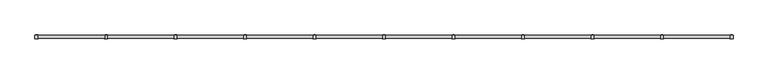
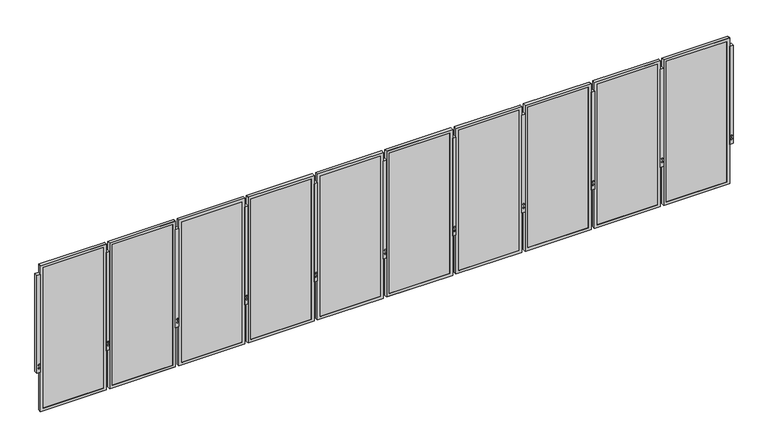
"""IFC4 building model written with IfcOpenShell, lengths in millimetres: railing geometry, Railing - Amico Architectural - Expanded Mesh Railing - Bilbao."""

from ifc_helpers import new_model, si_unit, frame, origin, place, context, project, spatial, polyline, outline, extrude, faceted_brep, source, transform, mapped, element, save


def railing_dcffd05b(model_context):
    return source(origin(), model_context, "Body", "SolidModel", [
        extrude(outline(polyline([(-18830.3844217, -28390.7915825), (-18779.5844217, -28390.7915825), (-18779.5844217, -28441.5915825), (-18830.3844217, -28441.5915825), (-18830.3844217, -28390.7915825)])), frame((0.0, 0.0, -609.6), z_axis=(0.0, 0.0, 1.0), x_axis=(1.0, 0.0, 0.0)), (0.0, 0.0, 1.0), 1524.0),
        extrude(outline(polyline([(-530.1129981, -18815.4049919), (-542.3802561, -18812.1179901), (-545.667258, -18799.8507321), (-536.6870019, -18790.8704759), (-524.4197439, -18794.1574778), (-521.132742, -18806.4247358), (-530.1129981, -18815.4049919)])), frame((0.0, -28443.4382703, 0.0), z_axis=(0.0, 1.0, 0.0), x_axis=(0.0, 0.0, 1.0)), (0.0, 0.0, 1.0), 54.4933756),
        extrude(outline(polyline([(-479.3129981, -18815.4049919), (-491.5802561, -18812.1179901), (-494.867258, -18799.8507321), (-485.8870019, -18790.8704759), (-473.6197439, -18794.1574778), (-470.332742, -18806.4247358), (-479.3129981, -18815.4049919)])), frame((0.0, -28443.4382703, 0.0), z_axis=(0.0, 1.0, 0.0), x_axis=(0.0, 0.0, 1.0)), (0.0, 0.0, 1.0), 54.4933756),
        faceted_brep([(-19796.7888751, -28437.9847825, -1222.375), (-18828.4138751, -28437.9847825, -1222.375), (-18828.4138751, -28437.9847825, 1044.575), (-19796.7888751, -28437.9847825, 1044.575), (-19755.5138751, -28437.9847825, 1003.3), (-18869.6888751, -28437.9847825, 1003.3), (-18869.6888751, -28437.9847825, -1181.1), (-19755.5138751, -28437.9847825, -1181.1), (-19755.5138751, -28435.2415825, 1003.3), (-19755.5138751, -28435.2415825, -1181.1), (-19796.7888751, -28394.1114859, 1044.575), (-19796.7888751, -28394.1114859, -1222.375), (-19793.6138751, -28394.1114859, 1041.4), (-19793.6138751, -28435.2415825, 1041.4), (-19793.6138751, -28435.2415825, -1219.2), (-19793.6138751, -28394.1114859, -1219.2), (-18869.6888751, -28435.2415825, -1181.1), (-18828.4138751, -28394.1114859, -1222.375), (-18831.5888751, -28435.2415825, -1219.2), (-18831.5888751, -28394.1114859, -1219.2), (-18869.6888751, -28435.2415825, 1003.3), (-18828.4138751, -28394.1114859, 1044.575), (-18831.5888751, -28435.2415825, 1041.4), (-18831.5888751, -28394.1114859, 1041.4)], [[[0, 1, 2, 3], [4, 5, 6, 7]], [[8, 4, 7, 9]], [[3, 10, 11, 0]], [[12, 13, 14, 15]], [[9, 7, 6, 16]], [[0, 11, 17, 1]], [[15, 14, 18, 19]], [[16, 6, 5, 20]], [[1, 17, 21, 2]], [[19, 18, 22, 23]], [[20, 5, 4, 8]], [[10, 21, 17, 11], [15, 19, 23, 12]], [[2, 21, 10, 3]], [[13, 22, 18, 14], [9, 16, 20, 8]], [[23, 22, 13, 12]]]),
        extrude(outline(polyline([(-19793.6138751, -28425.7165825), (-18831.5888751, -28425.7165825), (-18831.5888751, -28435.2415825), (-19793.6138751, -28435.2415825), (-19793.6138751, -28425.7165825)])), frame((0.0, 0.0, -1219.2), z_axis=(0.0, 0.0, 1.0), x_axis=(1.0, 0.0, 0.0)), (0.0, 0.0, 1.0), 2260.6),
        extrude(outline(polyline([(-19847.9719217, -28390.7915825), (-19797.1719217, -28390.7915825), (-19797.1719217, -28441.5915825), (-19847.9719217, -28441.5915825), (-19847.9719217, -28390.7915825)])), frame((0.0, 0.0, -609.6), z_axis=(0.0, 0.0, 1.0), x_axis=(1.0, 0.0, 0.0)), (0.0, 0.0, 1.0), 1524.0),
        extrude(outline(polyline([(-530.1129981, -19832.9924919), (-542.3802561, -19829.7054901), (-545.667258, -19817.4382321), (-536.6870019, -19808.4579759), (-524.4197439, -19811.7449778), (-521.132742, -19824.0122358), (-530.1129981, -19832.9924919)])), frame((0.0, -28443.4382703, 0.0), z_axis=(0.0, 1.0, 0.0), x_axis=(0.0, 0.0, 1.0)), (0.0, 0.0, 1.0), 54.4933756),
        extrude(outline(polyline([(-479.3129981, -19832.9924919), (-491.5802561, -19829.7054901), (-494.867258, -19817.4382321), (-485.8870019, -19808.4579759), (-473.6197439, -19811.7449778), (-470.332742, -19824.0122358), (-479.3129981, -19832.9924919)])), frame((0.0, -28443.4382703, 0.0), z_axis=(0.0, 1.0, 0.0), x_axis=(0.0, 0.0, 1.0)), (0.0, 0.0, 1.0), 54.4933756),
        faceted_brep([(-20814.3763751, -28437.9847825, -1222.375), (-19846.0013751, -28437.9847825, -1222.375), (-19846.0013751, -28437.9847825, 1044.575), (-20814.3763751, -28437.9847825, 1044.575), (-20773.1013751, -28437.9847825, 1003.3), (-19887.2763751, -28437.9847825, 1003.3), (-19887.2763751, -28437.9847825, -1181.1), (-20773.1013751, -28437.9847825, -1181.1), (-20773.1013751, -28435.2415825, 1003.3), (-20773.1013751, -28435.2415825, -1181.1), (-20814.3763751, -28394.1114859, 1044.575), (-20814.3763751, -28394.1114859, -1222.375), (-20811.2013751, -28394.1114859, 1041.4), (-20811.2013751, -28435.2415825, 1041.4), (-20811.2013751, -28435.2415825, -1219.2), (-20811.2013751, -28394.1114859, -1219.2), (-19887.2763751, -28435.2415825, -1181.1), (-19846.0013751, -28394.1114859, -1222.375), (-19849.1763751, -28435.2415825, -1219.2), (-19849.1763751, -28394.1114859, -1219.2), (-19887.2763751, -28435.2415825, 1003.3), (-19846.0013751, -28394.1114859, 1044.575), (-19849.1763751, -28435.2415825, 1041.4), (-19849.1763751, -28394.1114859, 1041.4)], [[[0, 1, 2, 3], [4, 5, 6, 7]], [[8, 4, 7, 9]], [[3, 10, 11, 0]], [[12, 13, 14, 15]], [[9, 7, 6, 16]], [[0, 11, 17, 1]], [[15, 14, 18, 19]], [[16, 6, 5, 20]], [[1, 17, 21, 2]], [[19, 18, 22, 23]], [[20, 5, 4, 8]], [[10, 21, 17, 11], [15, 19, 23, 12]], [[2, 21, 10, 3]], [[13, 22, 18, 14], [9, 16, 20, 8]], [[23, 22, 13, 12]]]),
        extrude(outline(polyline([(-20811.2013751, -28425.7165825), (-19849.1763751, -28425.7165825), (-19849.1763751, -28435.2415825), (-20811.2013751, -28435.2415825), (-20811.2013751, -28425.7165825)])), frame((0.0, 0.0, -1219.2), z_axis=(0.0, 0.0, 1.0), x_axis=(1.0, 0.0, 0.0)), (0.0, 0.0, 1.0), 2260.6),
        extrude(outline(polyline([(-20865.5594217, -28390.7915825), (-20814.7594217, -28390.7915825), (-20814.7594217, -28441.5915825), (-20865.5594217, -28441.5915825), (-20865.5594217, -28390.7915825)])), frame((0.0, 0.0, -609.6), z_axis=(0.0, 0.0, 1.0), x_axis=(1.0, 0.0, 0.0)), (0.0, 0.0, 1.0), 1524.0),
        extrude(outline(polyline([(-530.1129981, -20850.5799919), (-542.3802561, -20847.2929901), (-545.667258, -20835.0257321), (-536.6870019, -20826.0454759), (-524.4197439, -20829.3324778), (-521.132742, -20841.5997358), (-530.1129981, -20850.5799919)])), frame((0.0, -28443.4382703, 0.0), z_axis=(0.0, 1.0, 0.0), x_axis=(0.0, 0.0, 1.0)), (0.0, 0.0, 1.0), 54.4933756),
        extrude(outline(polyline([(-479.3129981, -20850.5799919), (-491.5802561, -20847.2929901), (-494.867258, -20835.0257321), (-485.8870019, -20826.0454759), (-473.6197439, -20829.3324778), (-470.332742, -20841.5997358), (-479.3129981, -20850.5799919)])), frame((0.0, -28443.4382703, 0.0), z_axis=(0.0, 1.0, 0.0), x_axis=(0.0, 0.0, 1.0)), (0.0, 0.0, 1.0), 54.4933756),
        faceted_brep([(-21831.9638751, -28437.9847825, -1222.375), (-20863.5888751, -28437.9847825, -1222.375), (-20863.5888751, -28437.9847825, 1044.575), (-21831.9638751, -28437.9847825, 1044.575), (-21790.6888751, -28437.9847825, 1003.3), (-20904.8638751, -28437.9847825, 1003.3), (-20904.8638751, -28437.9847825, -1181.1), (-21790.6888751, -28437.9847825, -1181.1), (-21790.6888751, -28435.2415825, 1003.3), (-21790.6888751, -28435.2415825, -1181.1), (-21831.9638751, -28394.1114859, 1044.575), (-21831.9638751, -28394.1114859, -1222.375), (-21828.7888751, -28394.1114859, 1041.4), (-21828.7888751, -28435.2415825, 1041.4), (-21828.7888751, -28435.2415825, -1219.2), (-21828.7888751, -28394.1114859, -1219.2), (-20904.8638751, -28435.2415825, -1181.1), (-20863.5888751, -28394.1114859, -1222.375), (-20866.7638751, -28435.2415825, -1219.2), (-20866.7638751, -28394.1114859, -1219.2), (-20904.8638751, -28435.2415825, 1003.3), (-20863.5888751, -28394.1114859, 1044.575), (-20866.7638751, -28435.2415825, 1041.4), (-20866.7638751, -28394.1114859, 1041.4)], [[[0, 1, 2, 3], [4, 5, 6, 7]], [[8, 4, 7, 9]], [[3, 10, 11, 0]], [[12, 13, 14, 15]], [[9, 7, 6, 16]], [[0, 11, 17, 1]], [[15, 14, 18, 19]], [[16, 6, 5, 20]], [[1, 17, 21, 2]], [[19, 18, 22, 23]], [[20, 5, 4, 8]], [[10, 21, 17, 11], [15, 19, 23, 12]], [[2, 21, 10, 3]], [[13, 22, 18, 14], [9, 16, 20, 8]], [[23, 22, 13, 12]]]),
        extrude(outline(polyline([(-21828.7888751, -28425.7165825), (-20866.7638751, -28425.7165825), (-20866.7638751, -28435.2415825), (-21828.7888751, -28435.2415825), (-21828.7888751, -28425.7165825)])), frame((0.0, 0.0, -1219.2), z_axis=(0.0, 0.0, 1.0), x_axis=(1.0, 0.0, 0.0)), (0.0, 0.0, 1.0), 2260.6),
        extrude(outline(polyline([(-21883.1469217, -28390.7915825), (-21832.3469217, -28390.7915825), (-21832.3469217, -28441.5915825), (-21883.1469217, -28441.5915825), (-21883.1469217, -28390.7915825)])), frame((0.0, 0.0, -609.6), z_axis=(0.0, 0.0, 1.0), x_axis=(1.0, 0.0, 0.0)), (0.0, 0.0, 1.0), 1524.0),
        extrude(outline(polyline([(-530.1129981, -21868.1674919), (-542.3802561, -21864.8804901), (-545.667258, -21852.6132321), (-536.6870019, -21843.6329759), (-524.4197439, -21846.9199778), (-521.132742, -21859.1872358), (-530.1129981, -21868.1674919)])), frame((0.0, -28443.4382703, 0.0), z_axis=(0.0, 1.0, 0.0), x_axis=(0.0, 0.0, 1.0)), (0.0, 0.0, 1.0), 54.4933756),
        extrude(outline(polyline([(-479.3129981, -21868.1674919), (-491.5802561, -21864.8804901), (-494.867258, -21852.6132321), (-485.8870019, -21843.6329759), (-473.6197439, -21846.9199778), (-470.332742, -21859.1872358), (-479.3129981, -21868.1674919)])), frame((0.0, -28443.4382703, 0.0), z_axis=(0.0, 1.0, 0.0), x_axis=(0.0, 0.0, 1.0)), (0.0, 0.0, 1.0), 54.4933756),
        faceted_brep([(-22849.5513751, -28437.9847825, -1222.375), (-21881.1763751, -28437.9847825, -1222.375), (-21881.1763751, -28437.9847825, 1044.575), (-22849.5513751, -28437.9847825, 1044.575), (-22808.2763751, -28437.9847825, 1003.3), (-21922.4513751, -28437.9847825, 1003.3), (-21922.4513751, -28437.9847825, -1181.1), (-22808.2763751, -28437.9847825, -1181.1), (-22808.2763751, -28435.2415825, 1003.3), (-22808.2763751, -28435.2415825, -1181.1), (-22849.5513751, -28394.1114859, 1044.575), (-22849.5513751, -28394.1114859, -1222.375), (-22846.3763751, -28394.1114859, 1041.4), (-22846.3763751, -28435.2415825, 1041.4), (-22846.3763751, -28435.2415825, -1219.2), (-22846.3763751, -28394.1114859, -1219.2), (-21922.4513751, -28435.2415825, -1181.1), (-21881.1763751, -28394.1114859, -1222.375), (-21884.3513751, -28435.2415825, -1219.2), (-21884.3513751, -28394.1114859, -1219.2), (-21922.4513751, -28435.2415825, 1003.3), (-21881.1763751, -28394.1114859, 1044.575), (-21884.3513751, -28435.2415825, 1041.4), (-21884.3513751, -28394.1114859, 1041.4)], [[[0, 1, 2, 3], [4, 5, 6, 7]], [[8, 4, 7, 9]], [[3, 10, 11, 0]], [[12, 13, 14, 15]], [[9, 7, 6, 16]], [[0, 11, 17, 1]], [[15, 14, 18, 19]], [[16, 6, 5, 20]], [[1, 17, 21, 2]], [[19, 18, 22, 23]], [[20, 5, 4, 8]], [[10, 21, 17, 11], [15, 19, 23, 12]], [[2, 21, 10, 3]], [[13, 22, 18, 14], [9, 16, 20, 8]], [[23, 22, 13, 12]]]),
        extrude(outline(polyline([(-22846.3763751, -28425.7165825), (-21884.3513751, -28425.7165825), (-21884.3513751, -28435.2415825), (-22846.3763751, -28435.2415825), (-22846.3763751, -28425.7165825)])), frame((0.0, 0.0, -1219.2), z_axis=(0.0, 0.0, 1.0), x_axis=(1.0, 0.0, 0.0)), (0.0, 0.0, 1.0), 2260.6),
        extrude(outline(polyline([(-22900.7344217, -28390.7915825), (-22849.9344217, -28390.7915825), (-22849.9344217, -28441.5915825), (-22900.7344217, -28441.5915825), (-22900.7344217, -28390.7915825)])), frame((0.0, 0.0, -609.6), z_axis=(0.0, 0.0, 1.0), x_axis=(1.0, 0.0, 0.0)), (0.0, 0.0, 1.0), 1524.0),
        extrude(outline(polyline([(-530.1129981, -22885.7549919), (-542.3802561, -22882.4679901), (-545.667258, -22870.2007321), (-536.6870019, -22861.2204759), (-524.4197439, -22864.5074778), (-521.132742, -22876.7747358), (-530.1129981, -22885.7549919)])), frame((0.0, -28443.4382703, 0.0), z_axis=(0.0, 1.0, 0.0), x_axis=(0.0, 0.0, 1.0)), (0.0, 0.0, 1.0), 54.4933756),
        extrude(outline(polyline([(-479.3129981, -22885.7549919), (-491.5802561, -22882.4679901), (-494.867258, -22870.2007321), (-485.8870019, -22861.2204759), (-473.6197439, -22864.5074778), (-470.332742, -22876.7747358), (-479.3129981, -22885.7549919)])), frame((0.0, -28443.4382703, 0.0), z_axis=(0.0, 1.0, 0.0), x_axis=(0.0, 0.0, 1.0)), (0.0, 0.0, 1.0), 54.4933756),
        faceted_brep([(-23867.1388751, -28437.9847825, -1222.375), (-22898.7638751, -28437.9847825, -1222.375), (-22898.7638751, -28437.9847825, 1044.575), (-23867.1388751, -28437.9847825, 1044.575), (-23825.8638751, -28437.9847825, 1003.3), (-22940.0388751, -28437.9847825, 1003.3), (-22940.0388751, -28437.9847825, -1181.1), (-23825.8638751, -28437.9847825, -1181.1), (-23825.8638751, -28435.2415825, 1003.3), (-23825.8638751, -28435.2415825, -1181.1), (-23867.1388751, -28394.1114859, 1044.575), (-23867.1388751, -28394.1114859, -1222.375), (-23863.9638751, -28394.1114859, 1041.4), (-23863.9638751, -28435.2415825, 1041.4), (-23863.9638751, -28435.2415825, -1219.2), (-23863.9638751, -28394.1114859, -1219.2), (-22940.0388751, -28435.2415825, -1181.1), (-22898.7638751, -28394.1114859, -1222.375), (-22901.9388751, -28435.2415825, -1219.2), (-22901.9388751, -28394.1114859, -1219.2), (-22940.0388751, -28435.2415825, 1003.3), (-22898.7638751, -28394.1114859, 1044.575), (-22901.9388751, -28435.2415825, 1041.4), (-22901.9388751, -28394.1114859, 1041.4)], [[[0, 1, 2, 3], [4, 5, 6, 7]], [[8, 4, 7, 9]], [[3, 10, 11, 0]], [[12, 13, 14, 15]], [[9, 7, 6, 16]], [[0, 11, 17, 1]], [[15, 14, 18, 19]], [[16, 6, 5, 20]], [[1, 17, 21, 2]], [[19, 18, 22, 23]], [[20, 5, 4, 8]], [[10, 21, 17, 11], [15, 19, 23, 12]], [[2, 21, 10, 3]], [[13, 22, 18, 14], [9, 16, 20, 8]], [[23, 22, 13, 12]]]),
        extrude(outline(polyline([(-23863.9638751, -28425.7165825), (-22901.9388751, -28425.7165825), (-22901.9388751, -28435.2415825), (-23863.9638751, -28435.2415825), (-23863.9638751, -28425.7165825)])), frame((0.0, 0.0, -1219.2), z_axis=(0.0, 0.0, 1.0), x_axis=(1.0, 0.0, 0.0)), (0.0, 0.0, 1.0), 2260.6),
        extrude(outline(polyline([(-23918.3219217, -28390.7915825), (-23867.5219217, -28390.7915825), (-23867.5219217, -28441.5915825), (-23918.3219217, -28441.5915825), (-23918.3219217, -28390.7915825)])), frame((0.0, 0.0, -609.6), z_axis=(0.0, 0.0, 1.0), x_axis=(1.0, 0.0, 0.0)), (0.0, 0.0, 1.0), 1524.0),
        extrude(outline(polyline([(-530.1129981, -23903.3424919), (-542.3802561, -23900.0554901), (-545.667258, -23887.7882321), (-536.6870019, -23878.8079759), (-524.4197439, -23882.0949778), (-521.132742, -23894.3622358), (-530.1129981, -23903.3424919)])), frame((0.0, -28443.4382703, 0.0), z_axis=(0.0, 1.0, 0.0), x_axis=(0.0, 0.0, 1.0)), (0.0, 0.0, 1.0), 54.4933756),
        extrude(outline(polyline([(-479.3129981, -23903.3424919), (-491.5802561, -23900.0554901), (-494.867258, -23887.7882321), (-485.8870019, -23878.8079759), (-473.6197439, -23882.0949778), (-470.332742, -23894.3622358), (-479.3129981, -23903.3424919)])), frame((0.0, -28443.4382703, 0.0), z_axis=(0.0, 1.0, 0.0), x_axis=(0.0, 0.0, 1.0)), (0.0, 0.0, 1.0), 54.4933756),
        faceted_brep([(-24884.7263751, -28437.9847825, -1222.375), (-23916.3513751, -28437.9847825, -1222.375), (-23916.3513751, -28437.9847825, 1044.575), (-24884.7263751, -28437.9847825, 1044.575), (-24843.4513751, -28437.9847825, 1003.3), (-23957.6263751, -28437.9847825, 1003.3), (-23957.6263751, -28437.9847825, -1181.1), (-24843.4513751, -28437.9847825, -1181.1), (-24843.4513751, -28435.2415825, 1003.3), (-24843.4513751, -28435.2415825, -1181.1), (-24884.7263751, -28394.1114859, 1044.575), (-24884.7263751, -28394.1114859, -1222.375), (-24881.5513751, -28394.1114859, 1041.4), (-24881.5513751, -28435.2415825, 1041.4), (-24881.5513751, -28435.2415825, -1219.2), (-24881.5513751, -28394.1114859, -1219.2), (-23957.6263751, -28435.2415825, -1181.1), (-23916.3513751, -28394.1114859, -1222.375), (-23919.5263751, -28435.2415825, -1219.2), (-23919.5263751, -28394.1114859, -1219.2), (-23957.6263751, -28435.2415825, 1003.3), (-23916.3513751, -28394.1114859, 1044.575), (-23919.5263751, -28435.2415825, 1041.4), (-23919.5263751, -28394.1114859, 1041.4)], [[[0, 1, 2, 3], [4, 5, 6, 7]], [[8, 4, 7, 9]], [[3, 10, 11, 0]], [[12, 13, 14, 15]], [[9, 7, 6, 16]], [[0, 11, 17, 1]], [[15, 14, 18, 19]], [[16, 6, 5, 20]], [[1, 17, 21, 2]], [[19, 18, 22, 23]], [[20, 5, 4, 8]], [[10, 21, 17, 11], [15, 19, 23, 12]], [[2, 21, 10, 3]], [[13, 22, 18, 14], [9, 16, 20, 8]], [[23, 22, 13, 12]]]),
        extrude(outline(polyline([(-24881.5513751, -28425.7165825), (-23919.5263751, -28425.7165825), (-23919.5263751, -28435.2415825), (-24881.5513751, -28435.2415825), (-24881.5513751, -28425.7165825)])), frame((0.0, 0.0, -1219.2), z_axis=(0.0, 0.0, 1.0), x_axis=(1.0, 0.0, 0.0)), (0.0, 0.0, 1.0), 2260.6),
        extrude(outline(polyline([(-24935.9094217, -28390.7915825), (-24885.1094217, -28390.7915825), (-24885.1094217, -28441.5915825), (-24935.9094217, -28441.5915825), (-24935.9094217, -28390.7915825)])), frame((0.0, 0.0, -609.6), z_axis=(0.0, 0.0, 1.0), x_axis=(1.0, 0.0, 0.0)), (0.0, 0.0, 1.0), 1524.0),
        extrude(outline(polyline([(-530.1129981, -24920.9299919), (-542.3802561, -24917.6429901), (-545.667258, -24905.3757321), (-536.6870019, -24896.3954759), (-524.4197439, -24899.6824778), (-521.132742, -24911.9497358), (-530.1129981, -24920.9299919)])), frame((0.0, -28443.4382703, 0.0), z_axis=(0.0, 1.0, 0.0), x_axis=(0.0, 0.0, 1.0)), (0.0, 0.0, 1.0), 54.4933756),
        extrude(outline(polyline([(-479.3129981, -24920.9299919), (-491.5802561, -24917.6429901), (-494.867258, -24905.3757321), (-485.8870019, -24896.3954759), (-473.6197439, -24899.6824778), (-470.332742, -24911.9497358), (-479.3129981, -24920.9299919)])), frame((0.0, -28443.4382703, 0.0), z_axis=(0.0, 1.0, 0.0), x_axis=(0.0, 0.0, 1.0)), (0.0, 0.0, 1.0), 54.4933756),
        faceted_brep([(-25902.3138751, -28437.9847825, -1222.375), (-24933.9388751, -28437.9847825, -1222.375), (-24933.9388751, -28437.9847825, 1044.575), (-25902.3138751, -28437.9847825, 1044.575), (-25861.0388751, -28437.9847825, 1003.3), (-24975.2138751, -28437.9847825, 1003.3), (-24975.2138751, -28437.9847825, -1181.1), (-25861.0388751, -28437.9847825, -1181.1), (-25861.0388751, -28435.2415825, 1003.3), (-25861.0388751, -28435.2415825, -1181.1), (-25902.3138751, -28394.1114859, 1044.575), (-25902.3138751, -28394.1114859, -1222.375), (-25899.1388751, -28394.1114859, 1041.4), (-25899.1388751, -28435.2415825, 1041.4), (-25899.1388751, -28435.2415825, -1219.2), (-25899.1388751, -28394.1114859, -1219.2), (-24975.2138751, -28435.2415825, -1181.1), (-24933.9388751, -28394.1114859, -1222.375), (-24937.1138751, -28435.2415825, -1219.2), (-24937.1138751, -28394.1114859, -1219.2), (-24975.2138751, -28435.2415825, 1003.3), (-24933.9388751, -28394.1114859, 1044.575), (-24937.1138751, -28435.2415825, 1041.4), (-24937.1138751, -28394.1114859, 1041.4)], [[[0, 1, 2, 3], [4, 5, 6, 7]], [[8, 4, 7, 9]], [[3, 10, 11, 0]], [[12, 13, 14, 15]], [[9, 7, 6, 16]], [[0, 11, 17, 1]], [[15, 14, 18, 19]], [[16, 6, 5, 20]], [[1, 17, 21, 2]], [[19, 18, 22, 23]], [[20, 5, 4, 8]], [[10, 21, 17, 11], [15, 19, 23, 12]], [[2, 21, 10, 3]], [[13, 22, 18, 14], [9, 16, 20, 8]], [[23, 22, 13, 12]]]),
        extrude(outline(polyline([(-25899.1388751, -28425.7165825), (-24937.1138751, -28425.7165825), (-24937.1138751, -28435.2415825), (-25899.1388751, -28435.2415825), (-25899.1388751, -28425.7165825)])), frame((0.0, 0.0, -1219.2), z_axis=(0.0, 0.0, 1.0), x_axis=(1.0, 0.0, 0.0)), (0.0, 0.0, 1.0), 2260.6),
        extrude(outline(polyline([(-25953.4969217, -28390.7915825), (-25902.6969217, -28390.7915825), (-25902.6969217, -28441.5915825), (-25953.4969217, -28441.5915825), (-25953.4969217, -28390.7915825)])), frame((0.0, 0.0, -609.6), z_axis=(0.0, 0.0, 1.0), x_axis=(1.0, 0.0, 0.0)), (0.0, 0.0, 1.0), 1524.0),
        extrude(outline(polyline([(-530.1129981, -25938.5174919), (-542.3802561, -25935.2304901), (-545.667258, -25922.9632321), (-536.6870019, -25913.9829759), (-524.4197439, -25917.2699778), (-521.132742, -25929.5372358), (-530.1129981, -25938.5174919)])), frame((0.0, -28443.4382703, 0.0), z_axis=(0.0, 1.0, 0.0), x_axis=(0.0, 0.0, 1.0)), (0.0, 0.0, 1.0), 54.4933756),
        extrude(outline(polyline([(-479.3129981, -25938.5174919), (-491.5802561, -25935.2304901), (-494.867258, -25922.9632321), (-485.8870019, -25913.9829759), (-473.6197439, -25917.2699778), (-470.332742, -25929.5372358), (-479.3129981, -25938.5174919)])), frame((0.0, -28443.4382703, 0.0), z_axis=(0.0, 1.0, 0.0), x_axis=(0.0, 0.0, 1.0)), (0.0, 0.0, 1.0), 54.4933756),
        faceted_brep([(-26919.9013751, -28437.9847825, -1222.375), (-25951.5263751, -28437.9847825, -1222.375), (-25951.5263751, -28437.9847825, 1044.575), (-26919.9013751, -28437.9847825, 1044.575), (-26878.6263751, -28437.9847825, 1003.3), (-25992.8013751, -28437.9847825, 1003.3), (-25992.8013751, -28437.9847825, -1181.1), (-26878.6263751, -28437.9847825, -1181.1), (-26878.6263751, -28435.2415825, 1003.3), (-26878.6263751, -28435.2415825, -1181.1), (-26919.9013751, -28394.1114859, 1044.575), (-26919.9013751, -28394.1114859, -1222.375), (-26916.7263751, -28394.1114859, 1041.4), (-26916.7263751, -28435.2415825, 1041.4), (-26916.7263751, -28435.2415825, -1219.2), (-26916.7263751, -28394.1114859, -1219.2), (-25992.8013751, -28435.2415825, -1181.1), (-25951.5263751, -28394.1114859, -1222.375), (-25954.7013751, -28435.2415825, -1219.2), (-25954.7013751, -28394.1114859, -1219.2), (-25992.8013751, -28435.2415825, 1003.3), (-25951.5263751, -28394.1114859, 1044.575), (-25954.7013751, -28435.2415825, 1041.4), (-25954.7013751, -28394.1114859, 1041.4)], [[[0, 1, 2, 3], [4, 5, 6, 7]], [[8, 4, 7, 9]], [[3, 10, 11, 0]], [[12, 13, 14, 15]], [[9, 7, 6, 16]], [[0, 11, 17, 1]], [[15, 14, 18, 19]], [[16, 6, 5, 20]], [[1, 17, 21, 2]], [[19, 18, 22, 23]], [[20, 5, 4, 8]], [[10, 21, 17, 11], [15, 19, 23, 12]], [[2, 21, 10, 3]], [[13, 22, 18, 14], [9, 16, 20, 8]], [[23, 22, 13, 12]]]),
        extrude(outline(polyline([(-26916.7263751, -28425.7165825), (-25954.7013751, -28425.7165825), (-25954.7013751, -28435.2415825), (-26916.7263751, -28435.2415825), (-26916.7263751, -28425.7165825)])), frame((0.0, 0.0, -1219.2), z_axis=(0.0, 0.0, 1.0), x_axis=(1.0, 0.0, 0.0)), (0.0, 0.0, 1.0), 2260.6),
        extrude(outline(polyline([(-26971.0844217, -28390.7915825), (-26920.2844217, -28390.7915825), (-26920.2844217, -28441.5915825), (-26971.0844217, -28441.5915825), (-26971.0844217, -28390.7915825)])), frame((0.0, 0.0, -609.6), z_axis=(0.0, 0.0, 1.0), x_axis=(1.0, 0.0, 0.0)), (0.0, 0.0, 1.0), 1524.0),
        extrude(outline(polyline([(-530.1129981, -26956.1049919), (-542.3802561, -26952.8179901), (-545.667258, -26940.5507321), (-536.6870019, -26931.5704759), (-524.4197439, -26934.8574778), (-521.132742, -26947.1247358), (-530.1129981, -26956.1049919)])), frame((0.0, -28443.4382703, 0.0), z_axis=(0.0, 1.0, 0.0), x_axis=(0.0, 0.0, 1.0)), (0.0, 0.0, 1.0), 54.4933756),
        extrude(outline(polyline([(-479.3129981, -26956.1049919), (-491.5802561, -26952.8179901), (-494.867258, -26940.5507321), (-485.8870019, -26931.5704759), (-473.6197439, -26934.8574778), (-470.332742, -26947.1247358), (-479.3129981, -26956.1049919)])), frame((0.0, -28443.4382703, 0.0), z_axis=(0.0, 1.0, 0.0), x_axis=(0.0, 0.0, 1.0)), (0.0, 0.0, 1.0), 54.4933756),
        faceted_brep([(-27937.4888751, -28437.9847825, -1222.375), (-26969.1138751, -28437.9847825, -1222.375), (-26969.1138751, -28437.9847825, 1044.575), (-27937.4888751, -28437.9847825, 1044.575), (-27896.2138751, -28437.9847825, 1003.3), (-27010.3888751, -28437.9847825, 1003.3), (-27010.3888751, -28437.9847825, -1181.1), (-27896.2138751, -28437.9847825, -1181.1), (-27896.2138751, -28435.2415825, 1003.3), (-27896.2138751, -28435.2415825, -1181.1), (-27937.4888751, -28394.1114859, 1044.575), (-27937.4888751, -28394.1114859, -1222.375), (-27934.3138751, -28394.1114859, 1041.4), (-27934.3138751, -28435.2415825, 1041.4), (-27934.3138751, -28435.2415825, -1219.2), (-27934.3138751, -28394.1114859, -1219.2), (-27010.3888751, -28435.2415825, -1181.1), (-26969.1138751, -28394.1114859, -1222.375), (-26972.2888751, -28435.2415825, -1219.2), (-26972.2888751, -28394.1114859, -1219.2), (-27010.3888751, -28435.2415825, 1003.3), (-26969.1138751, -28394.1114859, 1044.575), (-26972.2888751, -28435.2415825, 1041.4), (-26972.2888751, -28394.1114859, 1041.4)], [[[0, 1, 2, 3], [4, 5, 6, 7]], [[8, 4, 7, 9]], [[3, 10, 11, 0]], [[12, 13, 14, 15]], [[9, 7, 6, 16]], [[0, 11, 17, 1]], [[15, 14, 18, 19]], [[16, 6, 5, 20]], [[1, 17, 21, 2]], [[19, 18, 22, 23]], [[20, 5, 4, 8]], [[10, 21, 17, 11], [15, 19, 23, 12]], [[2, 21, 10, 3]], [[13, 22, 18, 14], [9, 16, 20, 8]], [[23, 22, 13, 12]]]),
        extrude(outline(polyline([(-27934.3138751, -28425.7165825), (-26972.2888751, -28425.7165825), (-26972.2888751, -28435.2415825), (-27934.3138751, -28435.2415825), (-27934.3138751, -28425.7165825)])), frame((0.0, 0.0, -1219.2), z_axis=(0.0, 0.0, 1.0), x_axis=(1.0, 0.0, 0.0)), (0.0, 0.0, 1.0), 2260.6),
        extrude(outline(polyline([(-27988.6719217, -28390.7915825), (-27937.8719217, -28390.7915825), (-27937.8719217, -28441.5915825), (-27988.6719217, -28441.5915825), (-27988.6719217, -28390.7915825)])), frame((0.0, 0.0, -609.6), z_axis=(0.0, 0.0, 1.0), x_axis=(1.0, 0.0, 0.0)), (0.0, 0.0, 1.0), 1524.0),
        extrude(outline(polyline([(-530.1129981, -27973.6924919), (-542.3802561, -27970.4054901), (-545.667258, -27958.1382321), (-536.6870019, -27949.1579759), (-524.4197439, -27952.4449778), (-521.132742, -27964.7122358), (-530.1129981, -27973.6924919)])), frame((0.0, -28443.4382703, 0.0), z_axis=(0.0, 1.0, 0.0), x_axis=(0.0, 0.0, 1.0)), (0.0, 0.0, 1.0), 54.4933756),
        extrude(outline(polyline([(-479.3129981, -27973.6924919), (-491.5802561, -27970.4054901), (-494.867258, -27958.1382321), (-485.8870019, -27949.1579759), (-473.6197439, -27952.4449778), (-470.332742, -27964.7122358), (-479.3129981, -27973.6924919)])), frame((0.0, -28443.4382703, 0.0), z_axis=(0.0, 1.0, 0.0), x_axis=(0.0, 0.0, 1.0)), (0.0, 0.0, 1.0), 54.4933756),
        faceted_brep([(-28955.0763751, -28437.9847825, -1222.375), (-27986.7013751, -28437.9847825, -1222.375), (-27986.7013751, -28437.9847825, 1044.575), (-28955.0763751, -28437.9847825, 1044.575), (-28913.8013751, -28437.9847825, 1003.3), (-28027.9763751, -28437.9847825, 1003.3), (-28027.9763751, -28437.9847825, -1181.1), (-28913.8013751, -28437.9847825, -1181.1), (-28913.8013751, -28435.2415825, 1003.3), (-28913.8013751, -28435.2415825, -1181.1), (-28955.0763751, -28394.1114859, 1044.575), (-28955.0763751, -28394.1114859, -1222.375), (-28951.9013751, -28394.1114859, 1041.4), (-28951.9013751, -28435.2415825, 1041.4), (-28951.9013751, -28435.2415825, -1219.2), (-28951.9013751, -28394.1114859, -1219.2), (-28027.9763751, -28435.2415825, -1181.1), (-27986.7013751, -28394.1114859, -1222.375), (-27989.8763751, -28435.2415825, -1219.2), (-27989.8763751, -28394.1114859, -1219.2), (-28027.9763751, -28435.2415825, 1003.3), (-27986.7013751, -28394.1114859, 1044.575), (-27989.8763751, -28435.2415825, 1041.4), (-27989.8763751, -28394.1114859, 1041.4)], [[[0, 1, 2, 3], [4, 5, 6, 7]], [[8, 4, 7, 9]], [[3, 10, 11, 0]], [[12, 13, 14, 15]], [[9, 7, 6, 16]], [[0, 11, 17, 1]], [[15, 14, 18, 19]], [[16, 6, 5, 20]], [[1, 17, 21, 2]], [[19, 18, 22, 23]], [[20, 5, 4, 8]], [[10, 21, 17, 11], [15, 19, 23, 12]], [[2, 21, 10, 3]], [[13, 22, 18, 14], [9, 16, 20, 8]], [[23, 22, 13, 12]]]),
        extrude(outline(polyline([(-28951.9013751, -28425.7165825), (-27989.8763751, -28425.7165825), (-27989.8763751, -28435.2415825), (-28951.9013751, -28435.2415825), (-28951.9013751, -28425.7165825)])), frame((0.0, 0.0, -1219.2), z_axis=(0.0, 0.0, 1.0), x_axis=(1.0, 0.0, 0.0)), (0.0, 0.0, 1.0), 2260.6),
        extrude(outline(polyline([(-29006.2594217, -28390.7915825), (-28955.4594217, -28390.7915825), (-28955.4594217, -28441.5915825), (-29006.2594217, -28441.5915825), (-29006.2594217, -28390.7915825)])), frame((0.0, 0.0, -609.6), z_axis=(0.0, 0.0, 1.0), x_axis=(1.0, 0.0, 0.0)), (0.0, 0.0, 1.0), 1524.0),
        extrude(outline(polyline([(-530.1129981, -28991.2799919), (-542.3802561, -28987.9929901), (-545.667258, -28975.7257321), (-536.6870019, -28966.7454759), (-524.4197439, -28970.0324778), (-521.132742, -28982.2997358), (-530.1129981, -28991.2799919)])), frame((0.0, -28443.4382703, 0.0), z_axis=(0.0, 1.0, 0.0), x_axis=(0.0, 0.0, 1.0)), (0.0, 0.0, 1.0), 54.4933756),
        extrude(outline(polyline([(-479.3129981, -28991.2799919), (-491.5802561, -28987.9929901), (-494.867258, -28975.7257321), (-485.8870019, -28966.7454759), (-473.6197439, -28970.0324778), (-470.332742, -28982.2997358), (-479.3129981, -28991.2799919)])), frame((0.0, -28443.4382703, 0.0), z_axis=(0.0, 1.0, 0.0), x_axis=(0.0, 0.0, 1.0)), (0.0, 0.0, 1.0), 54.4933756),
    ])


if __name__ == "__main__":
    model = new_model("IFC4")
    model_context = context("Model", 3, world=origin())
    ifc_project = project(units=[si_unit("LENGTHUNIT", "METRE", prefix="MILLI")], contexts=[model_context])
    site = spatial("IfcSite", under=ifc_project)
    building = spatial("IfcBuilding", under=site)
    placement = place(None, origin())
    railing_shape = railing_dcffd05b(model_context)
    element("IfcRailing", 1, ObjectType="Railing - Amico Architectural - Expanded Mesh Railing - Bilbao", at=placement, inside=building, context=model_context, shape_type="MappedRepresentation", body=[
        mapped(railing_shape, transform((0.0, 0.0, 0.0), x_axis=(1.0, 0.0, 0.0), y_axis=(0.0, 1.0, 0.0), z_axis=(0.0, 0.0, 1.0))),
    ])
    save(model, "model.ifc")
